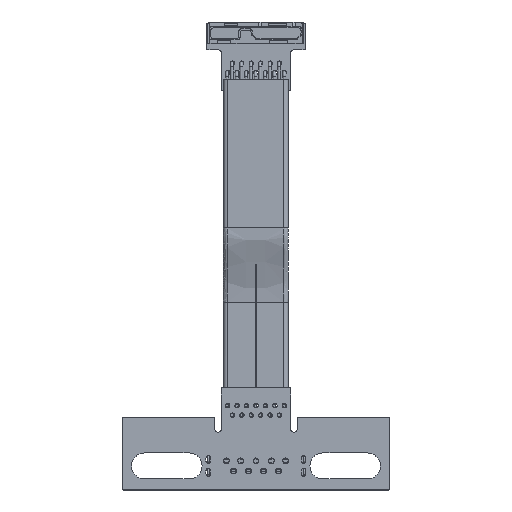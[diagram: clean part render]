
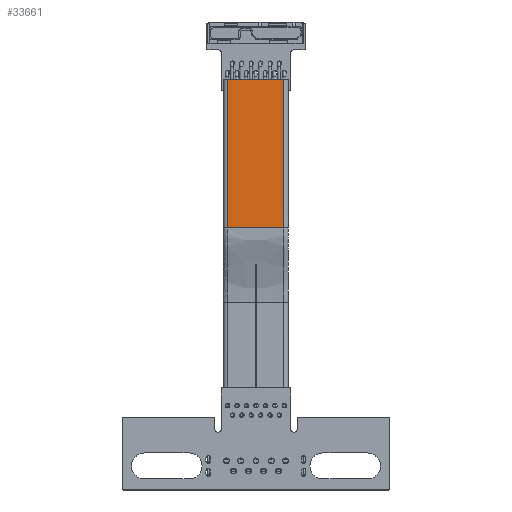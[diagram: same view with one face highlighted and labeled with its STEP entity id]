
A CAD part, top view. The second image highlights one B-rep face of the part: STEP entity #33661.
In plain terms, the highlighted planar face has unit normal (0, 0, 1) as drawn and (0, 0, -1) by its records, which use the part's own axes.
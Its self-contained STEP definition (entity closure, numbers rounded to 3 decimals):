
#31966 = VERTEX_POINT('',#31967);
#31967 = CARTESIAN_POINT('',(0.569,23.023,
    -2.457));
#31979 = EDGE_CURVE('',#31980,#31966,#31982,.T.);
#31980 = VERTEX_POINT('',#31981);
#31981 = CARTESIAN_POINT('',(8.189,23.023,
    -2.457));
#31982 = LINE('',#31983,#31984);
#31983 = CARTESIAN_POINT('',(4.379,23.023,
    -2.457));
#31984 = VECTOR('',#31985,1.);
#31985 = DIRECTION('',(-1.,0.,0.));
#33587 = VERTEX_POINT('',#33588);
#33588 = CARTESIAN_POINT('',(0.569,43.,-2.457));
#33610 = VERTEX_POINT('',#33611);
#33611 = CARTESIAN_POINT('',(8.189,43.,-2.457));
#33621 = EDGE_CURVE('',#33610,#33587,#33622,.T.);
#33622 = LINE('',#33623,#33624);
#33623 = CARTESIAN_POINT('',(4.379,43.,-2.457));
#33624 = VECTOR('',#33625,1.);
#33625 = DIRECTION('',(-1.,0.,0.));
#33643 = EDGE_CURVE('',#31966,#33587,#33644,.T.);
#33644 = LINE('',#33645,#33646);
#33645 = CARTESIAN_POINT('',(0.569,33.011,
    -2.457));
#33646 = VECTOR('',#33647,1.);
#33647 = DIRECTION('',(0.,1.,0.));
#33661 = ADVANCED_FACE('',(#33662),#33673,.T.);
#33662 = FACE_BOUND('',#33663,.T.);
#33663 = EDGE_LOOP('',(#33664,#33665,#33666,#33667));
#33664 = ORIENTED_EDGE('',*,*,#31979,.T.);
#33665 = ORIENTED_EDGE('',*,*,#33643,.T.);
#33666 = ORIENTED_EDGE('',*,*,#33621,.F.);
#33667 = ORIENTED_EDGE('',*,*,#33668,.F.);
#33668 = EDGE_CURVE('',#31980,#33610,#33669,.T.);
#33669 = LINE('',#33670,#33671);
#33670 = CARTESIAN_POINT('',(8.189,33.011,
    -2.457));
#33671 = VECTOR('',#33672,1.);
#33672 = DIRECTION('',(0.,1.,0.));
#33673 = PLANE('',#33674);
#33674 = AXIS2_PLACEMENT_3D('',#33675,#33676,#33677);
#33675 = CARTESIAN_POINT('',(8.189,23.023,
    -2.457));
#33676 = DIRECTION('',(0.,0.,-1.));
#33677 = DIRECTION('',(-1.,0.,0.));
